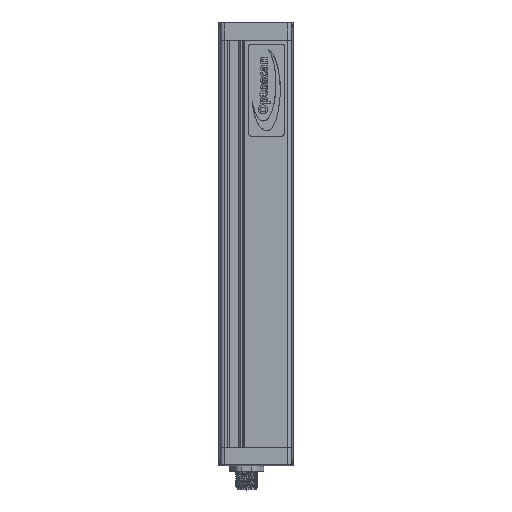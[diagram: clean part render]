
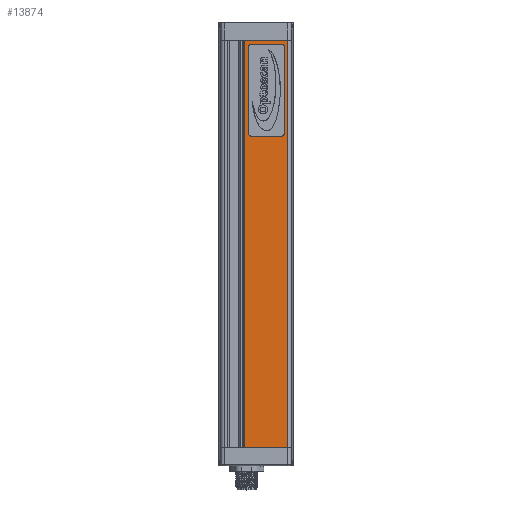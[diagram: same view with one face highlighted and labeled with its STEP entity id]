
A CAD part, top view. The second image highlights one B-rep face of the part: STEP entity #13874.
In plain terms, the highlighted planar face has unit normal (0, 0, 1).
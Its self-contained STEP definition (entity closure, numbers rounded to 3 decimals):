
#178=FACE_BOUND('',#2285,.T.);
#461=CIRCLE('',#14585,1.45);
#467=CIRCLE('',#14593,1.45);
#471=CIRCLE('',#14599,1.45);
#475=CIRCLE('',#14605,1.45);
#1052=PLANE('',#14718);
#1510=FACE_OUTER_BOUND('',#2284,.T.);
#2284=EDGE_LOOP('',(#9922,#9923,#9924,#9925));
#2285=EDGE_LOOP('',(#9926,#9927,#9928,#9929,#9930,#9931,#9932,#9933));
#3345=LINE('',#20295,#4416);
#3347=LINE('',#20307,#4418);
#3349=LINE('',#20319,#4420);
#3351=LINE('',#20328,#4422);
#3562=LINE('',#22495,#4633);
#3563=LINE('',#22497,#4634);
#3564=LINE('',#22499,#4635);
#3565=LINE('',#22500,#4636);
#4416=VECTOR('',#16169,10.);
#4418=VECTOR('',#16183,10.);
#4420=VECTOR('',#16197,10.);
#4422=VECTOR('',#16209,10.);
#4633=VECTOR('',#16644,10.);
#4634=VECTOR('',#16645,10.);
#4635=VECTOR('',#16646,10.);
#4636=VECTOR('',#16647,10.);
#5576=VERTEX_POINT('',#20283);
#5577=VERTEX_POINT('',#20285);
#5579=VERTEX_POINT('',#20291);
#5581=VERTEX_POINT('',#20297);
#5583=VERTEX_POINT('',#20303);
#5585=VERTEX_POINT('',#20309);
#5587=VERTEX_POINT('',#20315);
#5589=VERTEX_POINT('',#20321);
#5831=VERTEX_POINT('',#22493);
#5832=VERTEX_POINT('',#22494);
#5833=VERTEX_POINT('',#22496);
#5834=VERTEX_POINT('',#22498);
#6939=EDGE_CURVE('',#5576,#5577,#461,.T.);
#6944=EDGE_CURVE('',#5577,#5579,#3345,.T.);
#6947=EDGE_CURVE('',#5579,#5581,#467,.T.);
#6950=EDGE_CURVE('',#5581,#5583,#3347,.T.);
#6953=EDGE_CURVE('',#5583,#5585,#471,.T.);
#6956=EDGE_CURVE('',#5585,#5587,#3349,.T.);
#6959=EDGE_CURVE('',#5587,#5589,#475,.T.);
#6961=EDGE_CURVE('',#5589,#5576,#3351,.T.);
#7330=EDGE_CURVE('',#5831,#5832,#3562,.T.);
#7331=EDGE_CURVE('',#5832,#5833,#3563,.T.);
#7332=EDGE_CURVE('',#5834,#5833,#3564,.T.);
#7333=EDGE_CURVE('',#5831,#5834,#3565,.T.);
#9922=ORIENTED_EDGE('',*,*,#7330,.T.);
#9923=ORIENTED_EDGE('',*,*,#7331,.T.);
#9924=ORIENTED_EDGE('',*,*,#7332,.F.);
#9925=ORIENTED_EDGE('',*,*,#7333,.F.);
#9926=ORIENTED_EDGE('',*,*,#6939,.F.);
#9927=ORIENTED_EDGE('',*,*,#6961,.F.);
#9928=ORIENTED_EDGE('',*,*,#6959,.F.);
#9929=ORIENTED_EDGE('',*,*,#6956,.F.);
#9930=ORIENTED_EDGE('',*,*,#6953,.F.);
#9931=ORIENTED_EDGE('',*,*,#6950,.F.);
#9932=ORIENTED_EDGE('',*,*,#6947,.F.);
#9933=ORIENTED_EDGE('',*,*,#6944,.F.);
#13874=ADVANCED_FACE('',(#1510,#178),#1052,.T.);
#14585=AXIS2_PLACEMENT_3D('',#20286,#16158,#16159);
#14593=AXIS2_PLACEMENT_3D('',#20301,#16176,#16177);
#14599=AXIS2_PLACEMENT_3D('',#20313,#16190,#16191);
#14605=AXIS2_PLACEMENT_3D('',#20325,#16204,#16205);
#14718=AXIS2_PLACEMENT_3D('',#22492,#16642,#16643);
#16158=DIRECTION('center_axis',(0.,0.,
1.));
#16159=DIRECTION('ref_axis',(1.,0.,0.));
#16169=DIRECTION('',(1.,0.,0.));
#16176=DIRECTION('center_axis',(0.,0.,
1.));
#16177=DIRECTION('ref_axis',(1.,0.,0.));
#16183=DIRECTION('',(0.,1.,0.));
#16190=DIRECTION('center_axis',(0.,0.,
1.));
#16191=DIRECTION('ref_axis',(1.,0.,0.));
#16197=DIRECTION('',(-1.,0.,0.));
#16204=DIRECTION('center_axis',(0.,0.,
1.));
#16205=DIRECTION('ref_axis',(1.,0.,0.));
#16209=DIRECTION('',(0.,-1.,0.));
#16642=DIRECTION('center_axis',(0.,0.,
1.));
#16643=DIRECTION('ref_axis',(1.,0.,0.));
#16644=DIRECTION('',(1.,0.,0.));
#16645=DIRECTION('',(0.,1.,0.));
#16646=DIRECTION('',(1.,0.,0.));
#16647=DIRECTION('',(0.,1.,0.));
#20283=CARTESIAN_POINT('',(-42.765,169.7,28.879));
#20285=CARTESIAN_POINT('',(-41.315,168.25,28.879));
#20286=CARTESIAN_POINT('Origin',(-41.315,169.7,28.879));
#20291=CARTESIAN_POINT('',(-24.915,168.25,28.879));
#20295=CARTESIAN_POINT('',(-37.215,168.25,28.879));
#20297=CARTESIAN_POINT('',(-23.465,169.7,28.879));
#20301=CARTESIAN_POINT('Origin',(-24.915,169.7,28.879));
#20303=CARTESIAN_POINT('',(-23.465,216.5,28.879));
#20307=CARTESIAN_POINT('',(-23.465,181.4,28.879));
#20309=CARTESIAN_POINT('',(-24.915,217.95,28.879));
#20313=CARTESIAN_POINT('Origin',(-24.915,216.5,28.879));
#20315=CARTESIAN_POINT('',(-41.315,217.95,28.879));
#20319=CARTESIAN_POINT('',(-29.015,217.95,28.879));
#20321=CARTESIAN_POINT('',(-42.765,216.5,28.879));
#20325=CARTESIAN_POINT('Origin',(-41.315,216.5,28.879));
#20328=CARTESIAN_POINT('',(-42.765,204.8,28.879));
#22492=CARTESIAN_POINT('Origin',(-44.965,0.,
28.879));
#22493=CARTESIAN_POINT('',(-44.965,0.,28.879));
#22494=CARTESIAN_POINT('',(-21.664,0.,28.879));
#22495=CARTESIAN_POINT('',(-44.965,0.,28.879));
#22496=CARTESIAN_POINT('',(-21.664,220.,28.879));
#22497=CARTESIAN_POINT('',(-21.664,0.,28.879));
#22498=CARTESIAN_POINT('',(-44.965,220.,28.879));
#22499=CARTESIAN_POINT('',(-44.965,220.,28.879));
#22500=CARTESIAN_POINT('',(-44.965,0.,28.879));
